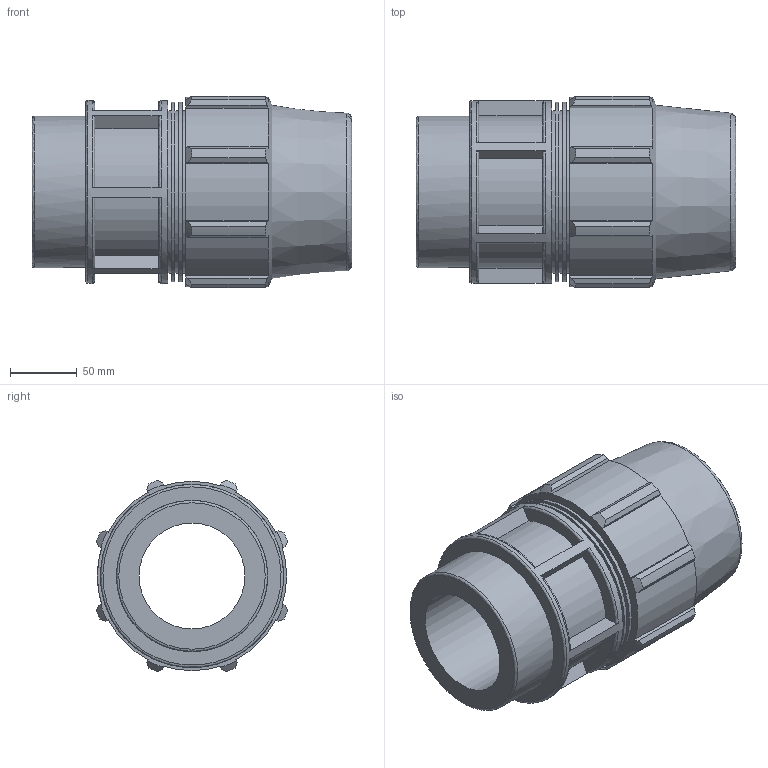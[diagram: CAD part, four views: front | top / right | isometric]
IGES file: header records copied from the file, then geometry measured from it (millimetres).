
Global section: file name: 0702060900400A.ipt; native system: Autodesk Inventor 2015; preprocessor: unknown; author: KIM; date: 20180325.201126; units: millimetre
Bounding box: 239 x 143.02 x 143.02 mm (x, y, z)
Volume: 1591300.3 mm3; surface area: 212099.2 mm2
Topology: 1 solids, 1 shells, 125 faces, 334 edges, 225 vertices
Faces by surface type: plane 67, cylinder 29, revolution 19, cone 10
Full cylindrical faces by diameter (mm): 113.03 x1, 121.6 x3, 134.064 x2, 136.8 x1
